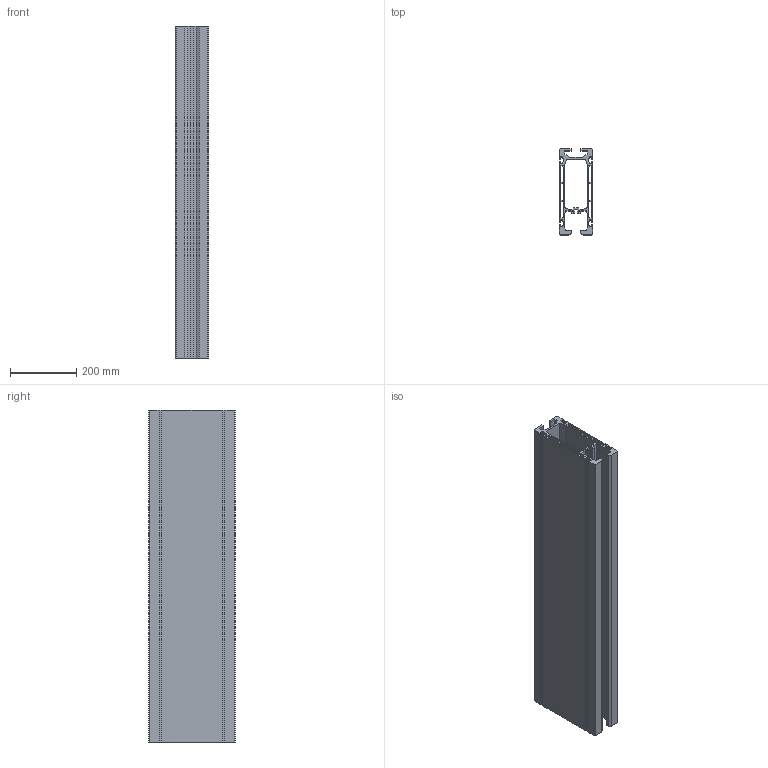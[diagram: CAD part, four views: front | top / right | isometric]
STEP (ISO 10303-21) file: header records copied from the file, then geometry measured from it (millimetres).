
FILE_DESCRIPTION (( 'STEP AP203' ), '1' );
FILE_NAME ('260寢耋.STEP', '2023-08-27T04:15:35', ( '' ), ( '' ), 'SwSTEP 2.0', 'SolidWorks 2020', '' );
FILE_SCHEMA (( 'CONFIG_CONTROL_DESIGN' ));
Length unit declared in the file: millimetre
Products named in the file (1): 260寢耋
Bounding box: 100 x 260 x 1000 mm (x, y, z)
Volume: 6501293.8 mm3; surface area: 2440816 mm2
Topology: 1 solids, 1 shells, 184 faces, 546 edges, 364 vertices
Faces by surface type: plane 148, cylinder 36
Entity records: 6207 total; most frequent: CARTESIAN_POINT 1095, ORIENTED_EDGE 1092, DIRECTION 988, EDGE_CURVE 546, VECTOR 474, LINE 474, VERTEX_POINT 364, AXIS2_PLACEMENT_3D 257
